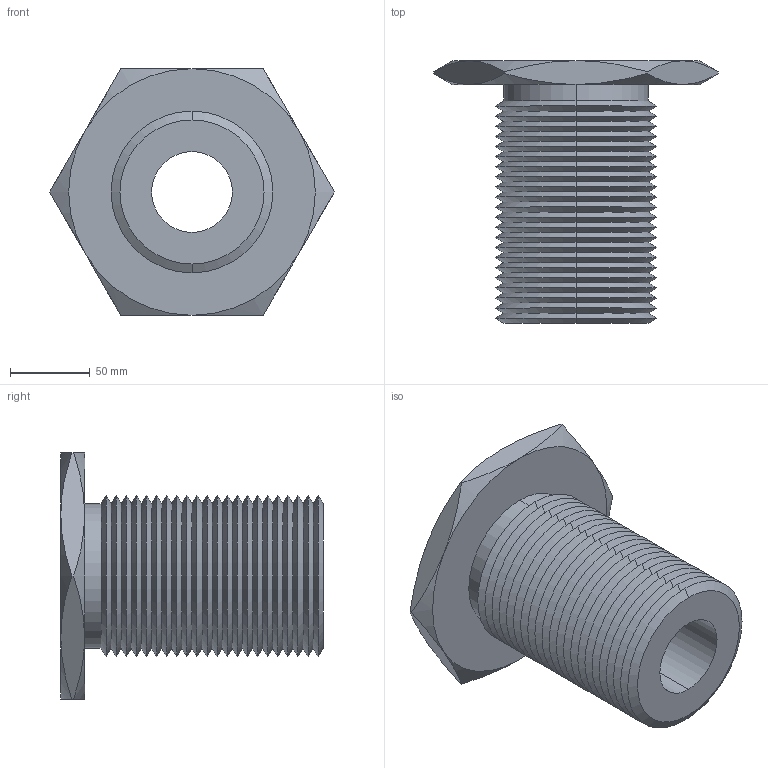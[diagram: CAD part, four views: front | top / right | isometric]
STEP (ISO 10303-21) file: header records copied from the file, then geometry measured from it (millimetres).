
FILE_DESCRIPTION (( 'STEP AP203' ), '1' );
FILE_NAME ('63302.W5400_2,00 UNC-4,5.step', '2013-12-08T12:03:36', ( 'User' ), ( '' ), 'SwSTEP 2.0', 'SolidWorks 2009', '' );
FILE_SCHEMA (( 'CONFIG_CONTROL_DESIGN' ));
Length unit declared in the file: millimetre
Products named in the file (1): 63302.W5400_2,00 UNC-4,5
Bounding box: 178.98 x 165 x 155 mm (x, y, z)
Volume: 1047667.2 mm3; surface area: 156794.4 mm2
Topology: 1 solids, 1 shells, 115 faces, 234 edges, 122 vertices
Faces by surface type: cone 102, plane 9, cylinder 4
Entity records: 3179 total; most frequent: CARTESIAN_POINT 696, DIRECTION 552, ORIENTED_EDGE 468, EDGE_CURVE 234, AXIS2_PLACEMENT_3D 226, VERTEX_POINT 122, EDGE_LOOP 118, ADVANCED_FACE 115
